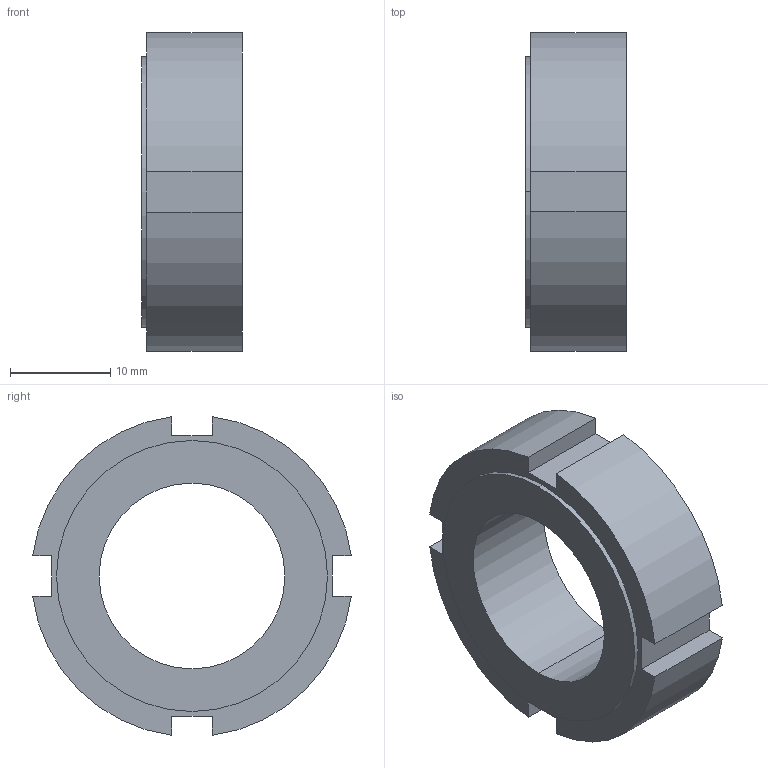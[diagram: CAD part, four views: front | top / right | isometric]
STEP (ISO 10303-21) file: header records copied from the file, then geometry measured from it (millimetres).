
FILE_DESCRIPTION (( 'STEP AP203' ), '1' );
FILE_NAME ('HIR20x1,5.STEP', '2002-08-15T11:39:46', ( '.' ), ( '.' ), 'SwSTEP 2.0', 'SolidWorks 2001340', '' );
FILE_SCHEMA (( 'CONFIG_CONTROL_DESIGN' ));
Length unit declared in the file: millimetre
Products named in the file (1): HIR20x1,5
Bounding box: 10 x 31.75 x 31.75 mm (x, y, z)
Volume: 4941 mm3; surface area: 2728.9 mm2
Topology: 1 solids, 1 shells, 23 faces, 60 edges, 40 vertices
Faces by surface type: plane 15, cylinder 8
Entity records: 791 total; most frequent: CARTESIAN_POINT 124, DIRECTION 124, ORIENTED_EDGE 120, EDGE_CURVE 60, LINE 44, VECTOR 44, VERTEX_POINT 40, AXIS2_PLACEMENT_3D 40
